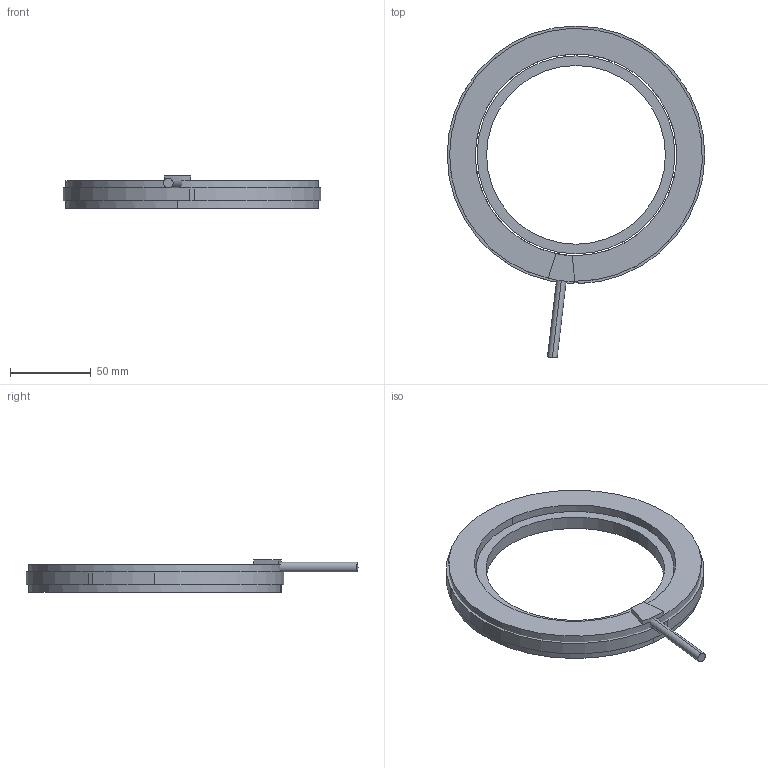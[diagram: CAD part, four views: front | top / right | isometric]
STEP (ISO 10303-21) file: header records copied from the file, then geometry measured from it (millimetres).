
FILE_DESCRIPTION (( 'STEP AP203' ), '1' );
FILE_NAME ('TM160-17 KIT 3D.STEP', '2021-06-08T00:26:39', ( '' ), ( '' ), 'SwSTEP 2.0', 'SolidWorks 2021', '' );
FILE_SCHEMA (( 'CONFIG_CONTROL_DESIGN' ));
Length unit declared in the file: millimetre
Products named in the file (1): TM160-17 KIT 3D
Bounding box: 160 x 206.16 x 20 mm (x, y, z)
Volume: 159983.1 mm3; surface area: 53892.9 mm2
Topology: 4 solids, 4 shells, 155 faces, 436 edges, 288 vertices
Faces by surface type: plane 84, cylinder 71
Entity records: 5123 total; most frequent: DIRECTION 894, CARTESIAN_POINT 880, ORIENTED_EDGE 872, EDGE_CURVE 436, AXIS2_PLACEMENT_3D 302, LINE 290, VECTOR 290, VERTEX_POINT 288
